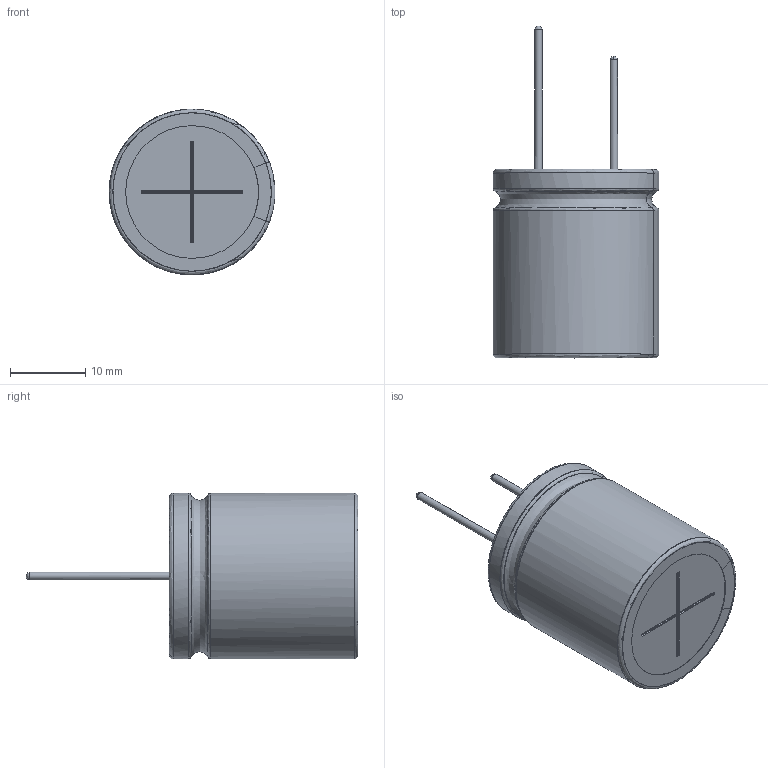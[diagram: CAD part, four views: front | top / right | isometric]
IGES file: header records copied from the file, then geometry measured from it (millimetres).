
Start section: JAMA-IS VERSION  1.0
Bounding box: 21.96 x 44 x 21.98 mm (x, y, z)
Surface area: 6600.3 mm2 (no closed solid volume)
Topology: 0 solids, 0 shells, 100 faces, 1352 edges, 1332 vertices
Faces by surface type: bspline 100
